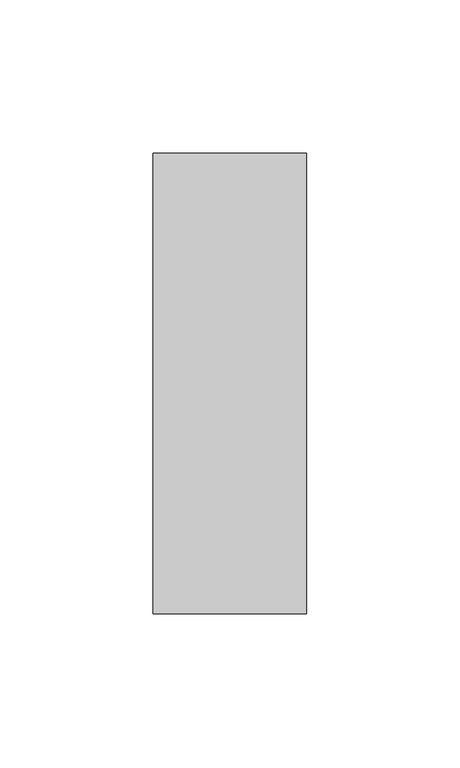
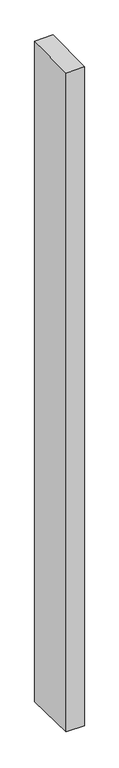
"""IFC4 building model written with IfcOpenShell, lengths in millimetres: member geometry, Прямоугольный импост : 50 x 150 мм."""

from ifc_helpers import new_model, si_unit, origin, place, context, project, spatial, faceted_brep, source, transform, mapped, element, save


def member_8ab8ef63(model_context):
    return source(origin(), model_context, "Body", "Brep", [
        faceted_brep([(-25.0, 75.0, 0.551872), (25.0, 75.0, 1.46676), (25.0, 75.0, -1922.9537279), (-25.0, 75.0, -1921.9565368), (-25.0, -75.0, -1.46676), (-25.0, -75.0, -1918.4290034), (25.0, -75.0, -0.551872), (25.0, -75.0, -1919.4261945)], [[[0, 1, 2, 3]], [[4, 0, 3, 5]], [[6, 4, 5, 7]], [[1, 6, 7, 2]], [[1, 0, 4, 6]], [[2, 7, 5, 3]]]),
    ])


if __name__ == "__main__":
    model = new_model("IFC4")
    model_context = context("Model", 3, world=origin())
    ifc_project = project(units=[si_unit("LENGTHUNIT", "METRE", prefix="MILLI")], contexts=[model_context])
    site = spatial("IfcSite", under=ifc_project)
    building = spatial("IfcBuilding", under=site)
    placement = place(None, origin())
    member_shape = member_8ab8ef63(model_context)
    element("IfcMember", 1, ObjectType="Прямоугольный импост : 50 x 150 мм", at=placement, inside=building, context=model_context, shape_type="MappedRepresentation", body=[
        mapped(member_shape, transform((0.0, 0.0, 0.0), x_axis=(1.0, 0.0, 0.0), y_axis=(0.0, 1.0, 0.0), z_axis=(0.0, 0.0, 1.0))),
    ])
    save(model, "model.ifc")
